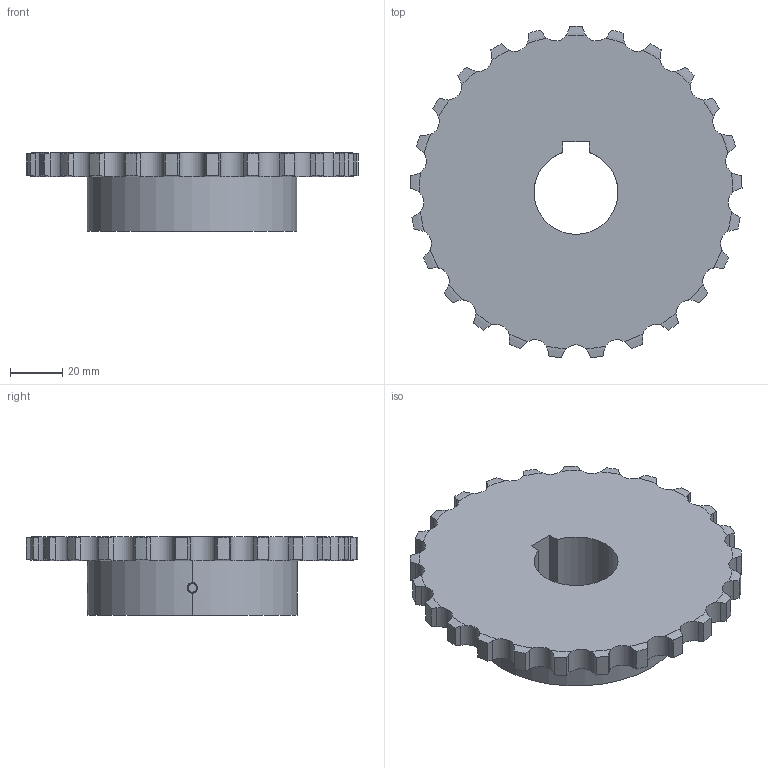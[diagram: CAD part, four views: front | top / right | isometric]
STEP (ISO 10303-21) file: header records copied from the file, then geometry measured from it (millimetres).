
FILE_DESCRIPTION((''),'2;1');
FILE_NAME('510-301-3225_PRT','2021-02-13T',('Brieden'),('Brieden'),'PRO/ENGINEER BY PARAMETRIC TECHNOLOGY CORPORATION, 2010160','PRO/ENGINEER BY PARAMETRIC TECHNOLOGY CORPORATION, 2010160','');
FILE_SCHEMA(('AUTOMOTIVE_DESIGN { 1 0 10303 214 1 1 1 1 }'));
Length unit declared in the file: millimetre
Products named in the file (1): 510-301-3225_PRT
Bounding box: 126.62 x 126.41 x 30 mm (x, y, z)
Volume: 184760.1 mm3; surface area: 34793.5 mm2
Topology: 1 solids, 1 shells, 171 faces, 495 edges, 328 vertices
Faces by surface type: cylinder 107, torus 50, plane 8, bspline 6
Entity records: 8381 total; most frequent: CARTESIAN_POINT 2600, ORIENTED_EDGE 990, DIRECTION 773, PRESENTATION_STYLE_ASSIGNMENT 496, STYLED_ITEM 496, CURVE_STYLE 495, EDGE_CURVE 495, VERTEX_POINT 328
